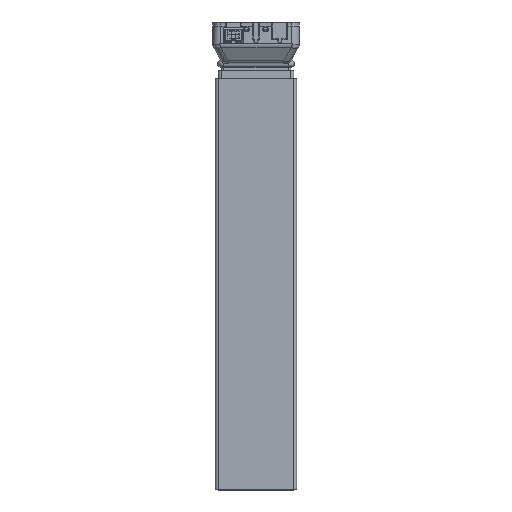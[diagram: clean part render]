
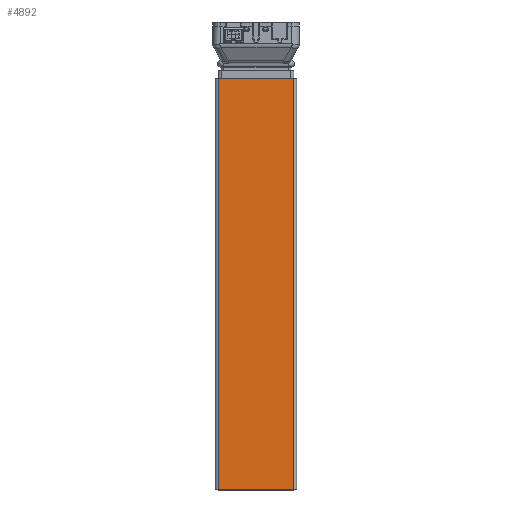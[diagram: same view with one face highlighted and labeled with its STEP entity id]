
A CAD part, top view. The second image highlights one B-rep face of the part: STEP entity #4892.
In plain terms, the highlighted planar face has unit normal (0, 0, 1).
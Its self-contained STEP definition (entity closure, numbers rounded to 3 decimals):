
#780=DIRECTION('',(-1.,0.,0.));
#781=VECTOR('',#780,84.);
#782=CARTESIAN_POINT('',(42.,0.,30.));
#783=LINE('',#782,#781);
#789=DIRECTION('',(-1.,0.,0.));
#790=VECTOR('',#789,84.);
#791=CARTESIAN_POINT('',(42.,456.,30.));
#792=LINE('',#791,#790);
#836=DIRECTION('',(0.,1.,0.));
#837=VECTOR('',#836,456.);
#838=CARTESIAN_POINT('',(42.,0.,30.));
#839=LINE('',#838,#837);
#872=DIRECTION('',(0.,-1.,0.));
#873=VECTOR('',#872,456.);
#874=CARTESIAN_POINT('',(-42.,456.,30.));
#875=LINE('',#874,#873);
#3977=CARTESIAN_POINT('',(42.,456.,30.));
#3979=VERTEX_POINT('',#3977);
#3980=CARTESIAN_POINT('',(-42.,456.,30.));
#3981=VERTEX_POINT('',#3980);
#3996=CARTESIAN_POINT('',(42.,0.,30.));
#3997=VERTEX_POINT('',#3996);
#4000=CARTESIAN_POINT('',(-42.,0.,30.));
#4001=VERTEX_POINT('',#4000);
#4878=CARTESIAN_POINT('',(42.,0.,30.));
#4879=DIRECTION('',(0.,0.,1.));
#4880=DIRECTION('',(-1.,0.,0.));
#4881=AXIS2_PLACEMENT_3D('',#4878,#4879,#4880);
#4882=PLANE('',#4881);
#4884=ORIENTED_EDGE('',*,*,#4883,.F.);
#4886=ORIENTED_EDGE('',*,*,#4885,.F.);
#4887=ORIENTED_EDGE('',*,*,#4849,.T.);
#4889=ORIENTED_EDGE('',*,*,#4888,.F.);
#4890=EDGE_LOOP('',(#4884,#4886,#4887,#4889));
#4891=FACE_OUTER_BOUND('',#4890,.F.);
#4849=EDGE_CURVE('',#3997,#4001,#783,.T.);
#4883=EDGE_CURVE('',#3979,#3981,#792,.T.);
#4885=EDGE_CURVE('',#3997,#3979,#839,.T.);
#4888=EDGE_CURVE('',#3981,#4001,#875,.T.);
#4892=ADVANCED_FACE('',(#4891),#4882,.T.);
